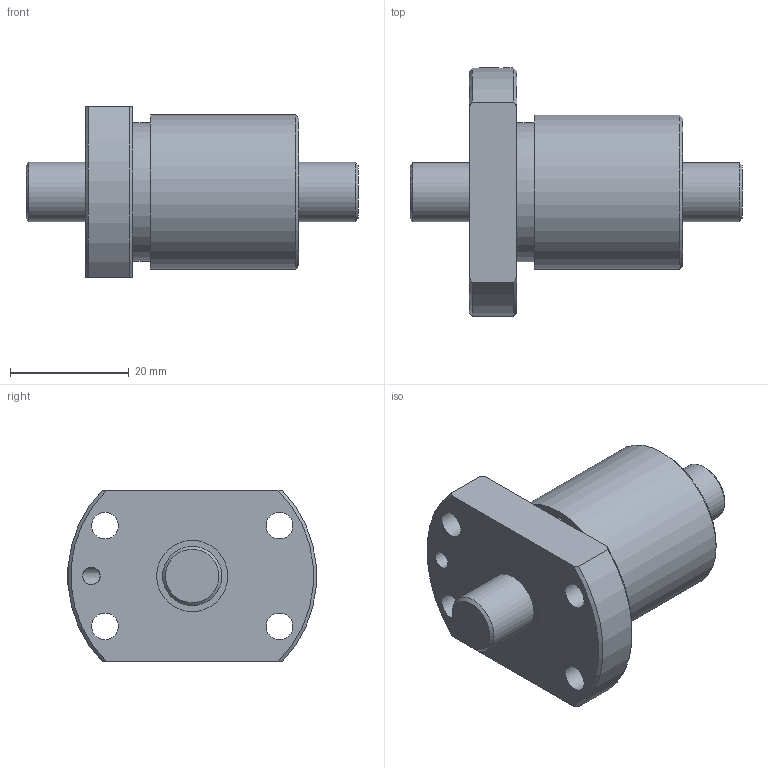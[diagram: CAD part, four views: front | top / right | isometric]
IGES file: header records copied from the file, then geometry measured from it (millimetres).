
Start section: Data from Parasolid IGES Translator 26.0.171, Copyright(c) 2006 Siemens PLM Software. All Rights Reserved.
Global section: file name: BTK1006V-2.6ZZ+56LC7T_000.igs; native system: By Siemens PLM Incorporated; preprocessor: XPlus GENERIC/IGES 26.0.171; author: Noname; organization: Noname; date: 20250116.075537; units: millimetre
Bounding box: 56 x 41.92 x 29 mm (x, y, z)
Surface area: 8974 mm2 (no closed solid volume)
Topology: 0 solids, 0 shells, 35 faces, 156 edges, 139 vertices
Faces by surface type: revolution 23, extrusion 12
